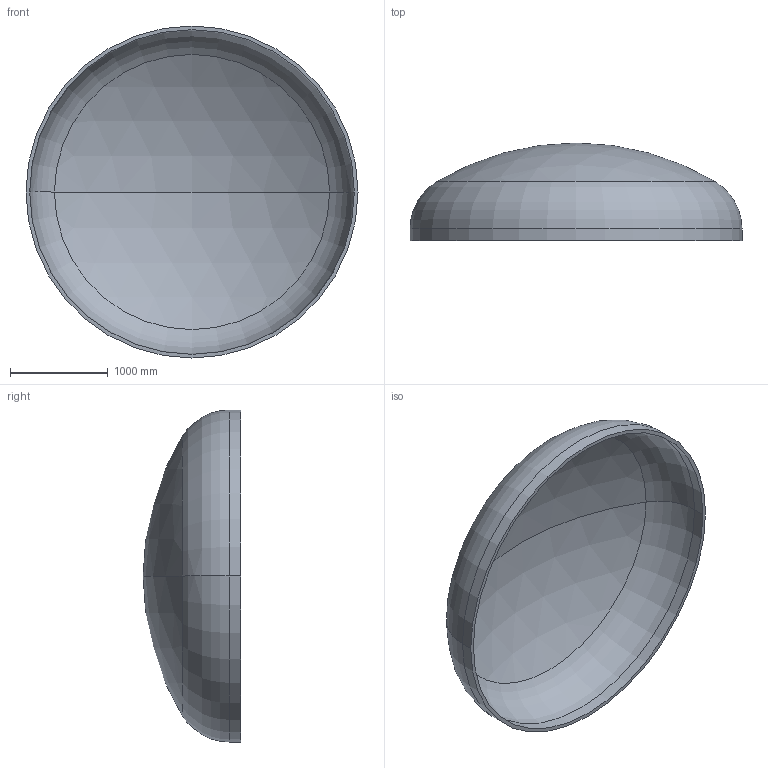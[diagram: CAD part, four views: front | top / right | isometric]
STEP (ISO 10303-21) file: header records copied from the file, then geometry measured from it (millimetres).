
FILE_DESCRIPTION (( 'STEP AP203' ), '1' );
FILE_NAME ('DIN 28013 Korbbogenform_-_Boden DIN 28013 - 3400 x 120 - I - s=38.step', '2016-07-01T19:27:50', ( '' ), ( '' ), 'SwSTEP 2.0', 'SolidWorks 2013', '' );
FILE_SCHEMA (( 'CONFIG_CONTROL_DESIGN' ));
Length unit declared in the file: millimetre
Products named in the file (1): DIN 28013 Korbbogenform_-_Boden DIN 28013 - 3400 x 120 - I - s=38
Bounding box: 3400 x 1000.43 x 3400 mm (x, y, z)
Volume: 519233367 mm3; surface area: 27732443.7 mm2
Topology: 1 solids, 1 shells, 13 faces, 24 edges, 14 vertices
Faces by surface type: torus 4, cylinder 4, sphere 4, plane 1
Entity records: 407 total; most frequent: DIRECTION 72, CARTESIAN_POINT 52, ORIENTED_EDGE 48, AXIS2_PLACEMENT_3D 34, EDGE_CURVE 24, CIRCLE 20, VERTEX_POINT 14, EDGE_LOOP 14
